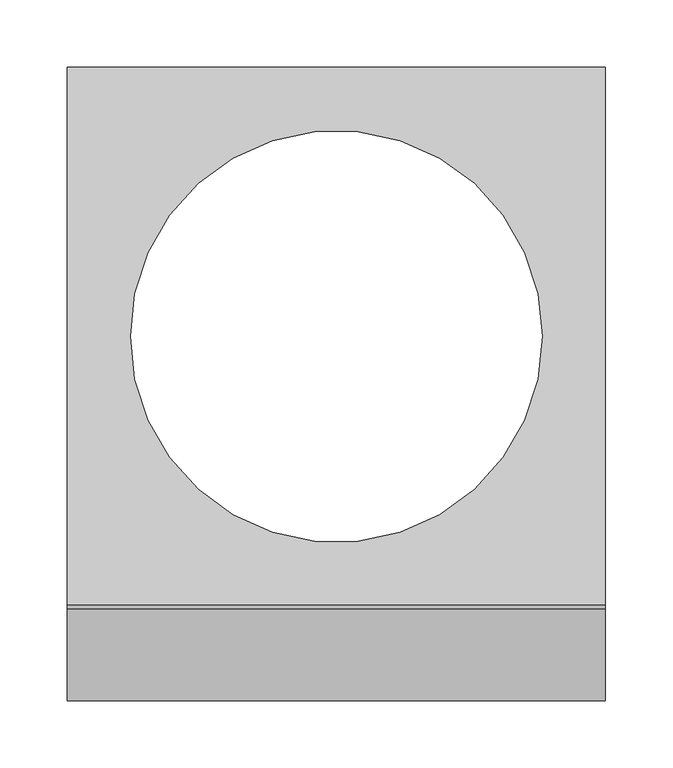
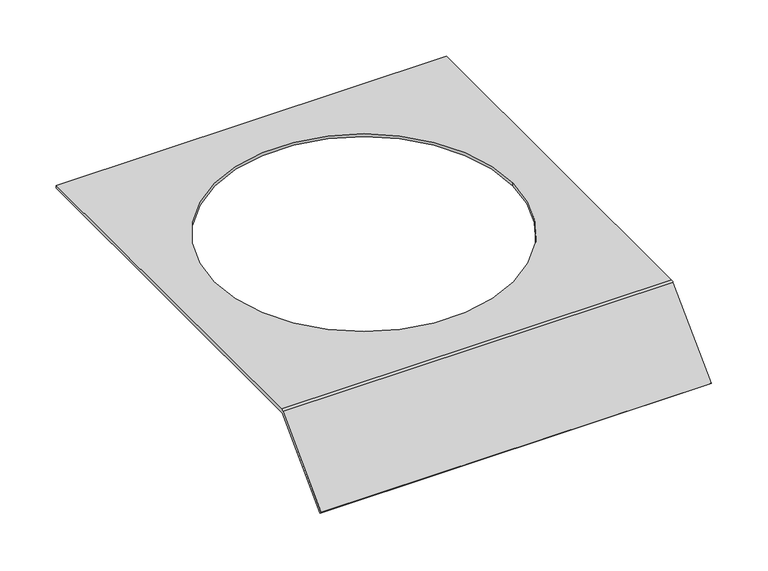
"""IFC4 building model written with IfcOpenShell, lengths in millimetres: proxy geometry, Electrical_Installation_Hager_Covers-With-Installation-Opening-R12 : Electrical_Installation_Hager_Covers-With-Installation-Opening-R12."""

from ifc_helpers import new_model, si_unit, frame, origin, place, context, project, spatial, polyline, circle_curve, source, transform, mapped, element, save
from ifc_brep_helpers import plane_surface, cylinder_surface, revolved_surface, advanced_brep


def electrical_fixtures_3a1a2a50(model_context):
    return source(origin(), model_context, "Body", "AdvancedBrep", [
        advanced_brep(
        [(0.0, 200.0, 40.5), (0.0, 200.0, 37.5), (0.0, -199.8229541, 37.5), (0.0, -200.8322972, 37.0819164), (0.0, -268.712807, -30.7985934), (0.0, -270.8341273, -28.6772731), (0.0, -202.8206472, 39.336207), (0.0, -200.0110025, 40.5), (400.0, 200.0, 40.5), (400.0, -200.0110025, 40.5), (400.0, -202.8206472, 39.336207), (400.0, -270.8341273, -28.6772731), (400.0, -268.712807, -30.7985934), (400.0, -200.8322972, 37.0819164), (400.0, -199.8229541, 37.5), (400.0, 200.0, 37.5), (47.0, 0.0, 37.5), (353.0, 0.0, 37.5), (353.0, 0.0, 40.5), (47.0, 0.0, 40.5)],
        [
            (0, 1),
            (1, 2),
            (2, 3, circle_curve(frame((0.0, -199.8229541, 36.0725733), z_axis=(1.0, 0.0, 0.0), x_axis=(0.0, 1.0, 0.0)), 1.4274267)),
            (3, 4),
            (4, 5),
            (5, 6),
            (6, 7, circle_curve(frame((0.0, -200.0110025, 36.5265623), z_axis=(-1.0, 0.0, 0.0), x_axis=(0.0, 1.0, 0.0)), 3.9734377)),
            (7, 0),
            (8, 9),
            (9, 10, circle_curve(frame((400.0, -200.0110025, 36.5265623), z_axis=(1.0, 0.0, 0.0), x_axis=(0.0, 1.0, 0.0)), 3.9734377)),
            (10, 11),
            (11, 12),
            (12, 13),
            (13, 14, circle_curve(frame((400.0, -199.8229541, 36.0725733), z_axis=(-1.0, 0.0, 0.0), x_axis=(0.0, 1.0, 0.0)), 1.4274267)),
            (14, 15),
            (15, 8),
            (0, 8),
            (15, 1),
            (14, 2),
            (16, 17, circle_curve(frame((200.0, 0.0, 37.5), z_axis=(0.0, 0.0, 1.0), x_axis=(1.0, 0.0, 0.0)), 153.0)),
            (17, 16, circle_curve(frame((200.0, 0.0, 37.5), z_axis=(0.0, 0.0, 1.0), x_axis=(1.0, 0.0, 0.0)), 153.0)),
            (13, 3),
            (12, 4),
            (11, 5),
            (10, 6),
            (9, 7),
            (18, 19, circle_curve(frame((200.0, 0.0, 40.5), z_axis=(0.0, 0.0, -1.0), x_axis=(1.0, 0.0, 0.0)), 153.0)),
            (19, 18, circle_curve(frame((200.0, 0.0, 40.5), z_axis=(0.0, 0.0, -1.0), x_axis=(1.0, 0.0, 0.0)), 153.0)),
            (16, 19),
            (18, 17),
        ],
        [
            plane_surface(frame((0.0, 0.3269864, 15.0), z_axis=(-1.0, 0.0, 0.0), x_axis=(0.0, 0.0, 1.0))),
            plane_surface(frame((400.0, 0.3269864, 15.0), z_axis=(1.0, 0.0, 0.0), x_axis=(0.0, 0.0, 1.0))),
            plane_surface(frame((0.0, 200.0, 40.5), z_axis=(0.0, 1.0, 0.0), x_axis=(1.0, 0.0, 0.0))),
            plane_surface(frame((0.0, 200.0, 37.5), z_axis=(0.0, 0.0, -1.0), x_axis=(1.0, 0.0, 0.0))),
            revolved_surface(polyline([(400.0, -198.3955274, 36.0725733), (0.0, -198.3955274, 36.0725733)]), (0.0, -199.8229541, 36.0725733), (1.0, 0.0, 0.0)),
            plane_surface(frame((0.0, -200.8322972, 37.0819164), z_axis=(0.0, 0.7071067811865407, -0.7071067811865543), x_axis=(1.0, 0.0, 0.0))),
            plane_surface(frame((0.0, -268.712807, -30.7985934), z_axis=(0.0, -0.7071067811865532, -0.7071067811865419), x_axis=(1.0, 0.0, 0.0))),
            plane_surface(frame((0.0, -270.8341273, -28.6772731), z_axis=(0.0, -0.7071067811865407, 0.7071067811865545), x_axis=(1.0, 0.0, 0.0))),
            cylinder_surface(frame((0.0, -200.0110025, 36.5265623), z_axis=(-1.0, 0.0, 0.0), x_axis=(0.0, 1.0, 0.0)), 3.9734377),
            plane_surface(frame((0.0, -200.0110025, 40.5), z_axis=(0.0, 0.0, 1.0), x_axis=(1.0, 0.0, 0.0))),
            revolved_surface(polyline([(353.0, 0.0, 40.5), (353.0, 0.0, 37.5)]), (200.0, 0.0, 0.0), (0.0, 0.0, 1.0)),
        ],
        [
            (0, [[1, 2, 3, 4, 5, 6, 7, 8]]),
            (1, [[9, 10, 11, 12, 13, 14, 15, 16]]),
            (2, [[-1, 17, -16, 18]]),
            (3, [[-2, -18, -15, 19], [20, 21]]),
            (4, [[-3, -19, -14, 22]]),
            (5, [[-4, -22, -13, 23]]),
            (6, [[-5, -23, -12, 24]]),
            (7, [[-6, -24, -11, 25]]),
            (8, [[-7, -25, -10, 26]]),
            (9, [[-8, -26, -9, -17], [27, 28]]),
            (10, [[29, -27, 30, -20]]),
            (10, [[-29, -21, -30, -28]]),
        ],
    ),
    ])


if __name__ == "__main__":
    model = new_model("IFC4")
    model_context = context("Model", 3, world=origin())
    ifc_project = project(units=[si_unit("LENGTHUNIT", "METRE", prefix="MILLI")], contexts=[model_context])
    site = spatial("IfcSite", under=ifc_project)
    building = spatial("IfcBuilding", under=site)
    placement = place(None, origin())
    electrical_fixtures_shape = electrical_fixtures_3a1a2a50(model_context)
    element("IfcBuildingElementProxy", 1, Name="Electrical_Installation_Hager_Covers-With-Installation-Opening-R12 : Electrical_Installation_Hager_Covers-With-Installation-Opening-R12", ObjectType="Electrical_Installation_Hager_Covers-With-Installation-Opening-R12 : Electrical_Installation_Hager_Covers-With-Installation-Opening-R12", at=placement, inside=building, context=model_context, shape_type="MappedRepresentation", body=[
        mapped(electrical_fixtures_shape, transform((0.0, 0.0, 0.0), x_axis=(1.0, 0.0, 0.0), y_axis=(0.0, 1.0, 0.0), z_axis=(0.0, 0.0, 1.0))),
    ])
    save(model, "model.ifc")
